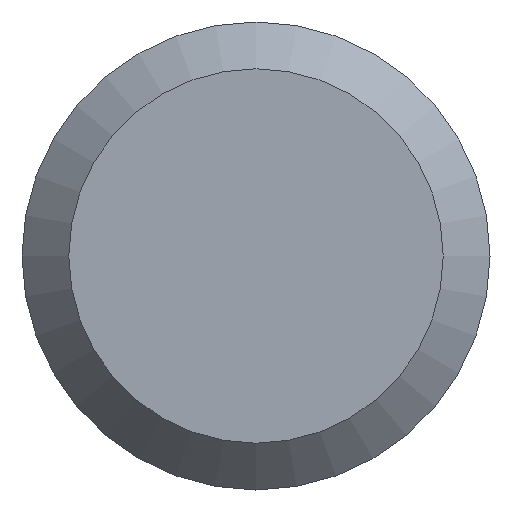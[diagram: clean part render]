
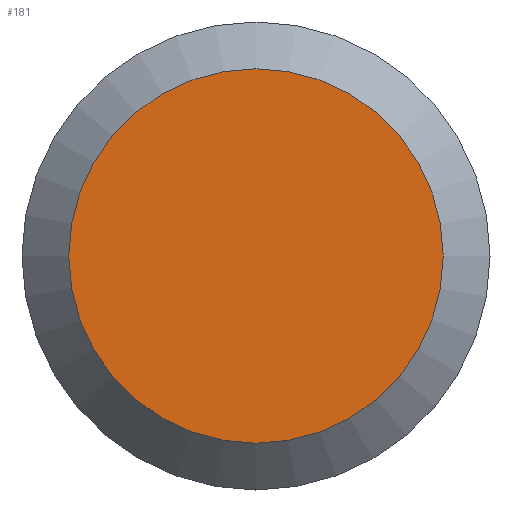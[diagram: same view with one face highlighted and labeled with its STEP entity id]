
A CAD part, left-side view. The second image highlights one B-rep face of the part: STEP entity #181.
In plain terms, the highlighted planar face has unit normal (-1, 0, 0).
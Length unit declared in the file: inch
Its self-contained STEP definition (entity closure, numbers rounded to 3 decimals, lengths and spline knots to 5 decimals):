
#4 = DIRECTION ( 'NONE',  ( 0., 0., -1. ) ) ;
#6 = DIRECTION ( 'NONE',  ( 1., 0., 0. ) ) ;
#9 = PLANE ( 'NONE',  #212 ) ;
#15 = VERTEX_POINT ( 'NONE', #200 ) ;
#25 = DIRECTION ( 'NONE',  ( -1., 0., 0. ) ) ;
#43 = DIRECTION ( 'NONE',  ( 0., 0., -1. ) ) ;
#52 = ORIENTED_EDGE ( 'NONE', *, *, #237, .T. ) ;
#111 = CARTESIAN_POINT ( 'NONE',  ( 0., 0., 0. ) ) ;
#147 = FACE_OUTER_BOUND ( 'NONE', #223, .T. ) ;
#153 = CIRCLE ( 'NONE', #162, 0.0416 ) ;
#162 = AXIS2_PLACEMENT_3D ( 'NONE', #111, #25, #43 ) ;
#165 = CARTESIAN_POINT ( 'NONE',  ( 0., 0.052, 0. ) ) ;
#181 = ADVANCED_FACE ( 'NONE', ( #147 ), #9, .F. ) ;
#200 = CARTESIAN_POINT ( 'NONE',  ( 0., 0., -0.0416 ) ) ;
#212 = AXIS2_PLACEMENT_3D ( 'NONE', #165, #6, #4 ) ;
#223 = EDGE_LOOP ( 'NONE', ( #52 ) ) ;
#237 = EDGE_CURVE ( 'NONE', #15, #15, #153, .T. ) ;
